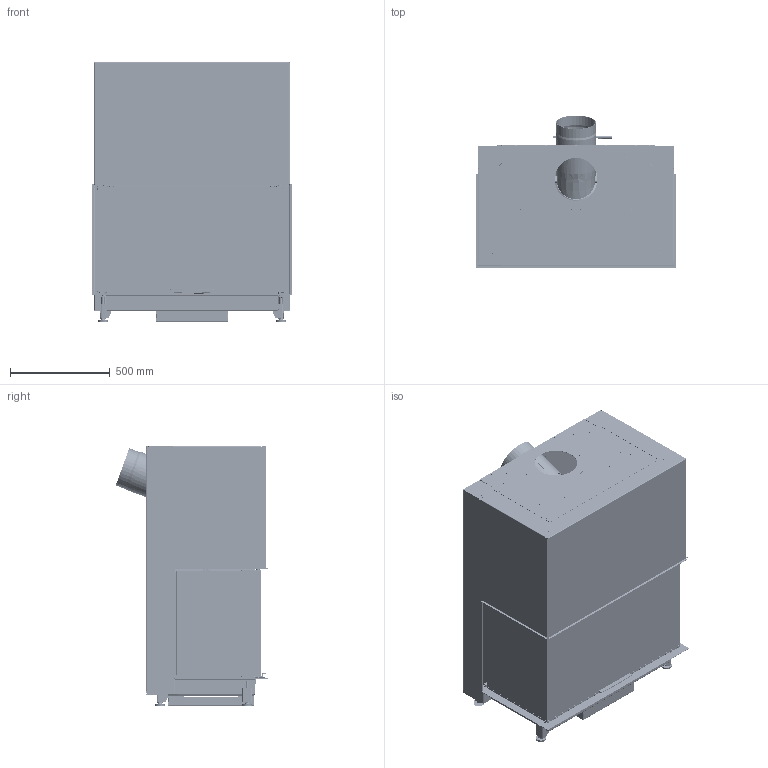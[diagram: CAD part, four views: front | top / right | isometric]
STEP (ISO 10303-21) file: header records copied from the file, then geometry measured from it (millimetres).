
FILE_DESCRIPTION(/* description */ (''),/* implementation_level */ '2;1');
FILE_NAME(/* name */ 'C:\ADSK_DM_WS\CAD_3D\03 Geraete\RIII 55x100x46\Zeichnungen\RIII 55x100x46 Gen.2 mit Mantel Abgang hinten CAD Planung defriten 2021-03214 211124.stp',/* time_stamp */ '2021-11-24T13:12:38+01:00',/* author */ ('CPI'),/* organization */ (''),/* preprocessor_version */ 'ST-DEVELOPER v18.1',/* originating_system */ 'Autodesk Inventor 2022',/* authorisation */ '');
FILE_SCHEMA (('AUTOMOTIVE_DESIGN { 1 0 10303 214 3 1 1 }'));
Products named in the file (9): 2021-03214; 2021-03201; 2021-03207; 2021-03205; 2021-03203; 2021-03069; 2021-03071; 2018-00985; 2021-03211
Assembly tree (8 placements, depth 2):
  2021-03214
    2021-03201
    2021-03207
    2021-03205
    2021-03203
    2021-03069
    2021-03071
    2018-00985
    2021-03211
Bounding box: 1000 x 762.77 x 1299 mm (x, y, z)
Volume: 41204936.3 mm3; surface area: 22668723.6 mm2
Topology: 15 solids, 30 shells, 9635 faces, 26899 edges, 17055 vertices
Faces by surface type: plane 5520, cylinder 3662, bspline 298, cone 97, torus 57, sphere 1
Full cylindrical faces by diameter (mm): 3.242 x6, 4.8 x1, 6 x3, 7 x11, 7.9 x2, 8 x8, 10 x10, 10.21 x4, 12 x4, 16 x10, 20 x4, 30 x4, 163 x1, 194 x1, 198 x1, 200 x1, 204 x1, 333 x1, 339 x1
Entity records: 328609 total; most frequent: CARTESIAN_POINT 71216, ORIENTED_EDGE 53732, DIRECTION 52724, EDGE_CURVE 26923, AXIS2_PLACEMENT_3D 17577, LINE 17570, VECTOR 17570, VERTEX_POINT 17051
